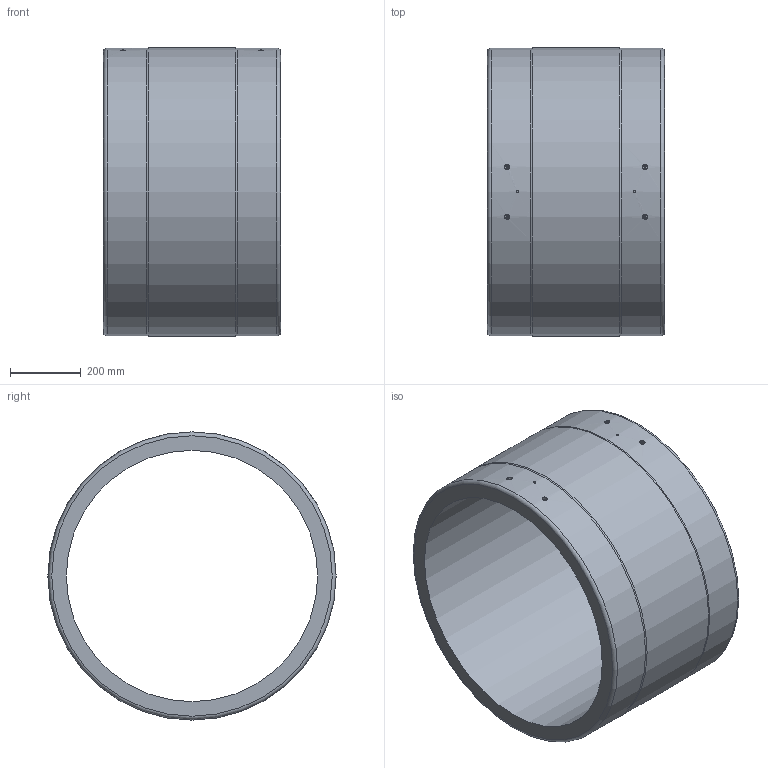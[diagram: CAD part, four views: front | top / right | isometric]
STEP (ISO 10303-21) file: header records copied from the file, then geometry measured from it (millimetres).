
FILE_DESCRIPTION(/* description */ ('Unknown'),/* implementation_level */ '2;1');
FILE_NAME(/* name */ 'MP710B',/* time_stamp */ '2021-06-23T14:38:19+02:00',/* author */ ('Unknown'),/* organization */ ('Unknown'),/* preprocessor_version */ 'ST-DEVELOPER v16.7',/* originating_system */ 'Solid Edge',/* authorisation */ 'Unknown');
FILE_SCHEMA (('AUTOMOTIVE_DESIGN {1 0 10303 214 3 1 1}'));
Length unit declared in the file: millimetre
Products named in the file (1): MP710B
Bounding box: 500 x 814 x 814 mm (x, y, z)
Volume: 61489146.2 mm3; surface area: 2617662.1 mm2
Topology: 1 solids, 1 shells, 34 faces, 65 edges, 41 vertices
Faces by surface type: cylinder 14, plane 12, bspline 4, cone 2, torus 2
Full cylindrical faces by diameter (mm): 4 x4, 6 x2, 13 x4, 710 x1, 812 x2, 814 x1
Entity records: 1104 total; most frequent: CARTESIAN_POINT 531, DIRECTION 110, ORIENTED_EDGE 68, EDGE_LOOP 68, FACE_BOUND 68, AXIS2_PLACEMENT_3D 55, EDGE_CURVE 34, VERTEX_POINT 34
